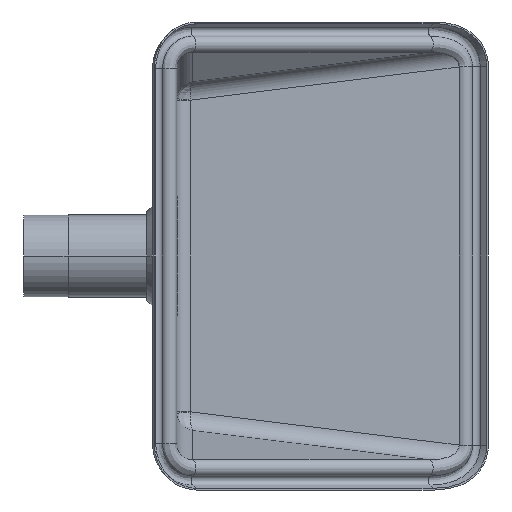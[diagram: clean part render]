
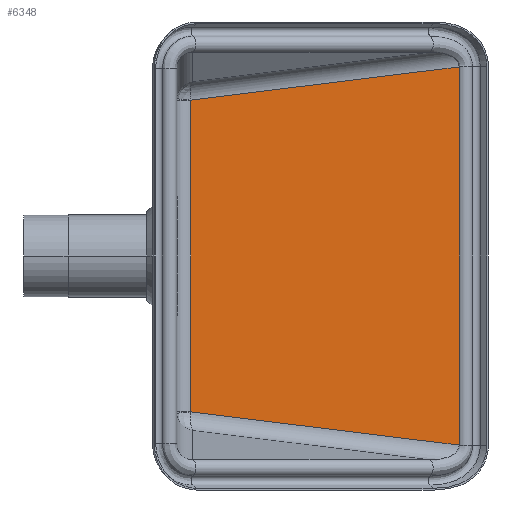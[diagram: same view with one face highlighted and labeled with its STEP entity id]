
A CAD part, front view. The second image highlights one B-rep face of the part: STEP entity #6348.
In plain terms, the highlighted planar face has unit normal (0.044, -0.999, 0) as drawn and (0, -0.887, -0.461) by its records, which use the part's own axes.
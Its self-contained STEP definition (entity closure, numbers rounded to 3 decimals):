
#2638=DIRECTION('',(1.,0.,0.));
#2639=VECTOR('',#2638,459.919);
#2640=CARTESIAN_POINT('',(-229.959,-1.395,
198.347));
#2641=LINE('',#2640,#2639);
#2842=DIRECTION('',(0.123,-0.458,0.88));
#2843=VECTOR('',#2842,329.246);
#2844=CARTESIAN_POINT('',(189.559,149.382,-91.544));
#2845=LINE('',#2844,#2843);
#2849=CARTESIAN_POINT('',(189.037,149.394,-91.567));
#2850=CARTESIAN_POINT('',(189.095,149.394,-91.567));
#2851=CARTESIAN_POINT('',(189.211,149.393,-91.565));
#2852=CARTESIAN_POINT('',(189.385,149.389,-91.558));
#2853=CARTESIAN_POINT('',(189.501,149.385,-91.549));
#2854=CARTESIAN_POINT('',(189.559,149.382,-91.544));
#2859=CARTESIAN_POINT('',(-189.559,149.382,
-91.544));
#2860=CARTESIAN_POINT('',(-189.501,149.385,
-91.549));
#2861=CARTESIAN_POINT('',(-189.385,149.389,
-91.558));
#2862=CARTESIAN_POINT('',(-189.211,149.393,
-91.565));
#2863=CARTESIAN_POINT('',(-189.095,149.394,
-91.567));
#2864=CARTESIAN_POINT('',(-189.037,149.394,
-91.567));
#2869=DIRECTION('',(0.123,0.458,-0.88));
#2870=VECTOR('',#2869,329.246);
#2871=CARTESIAN_POINT('',(-229.959,-1.395,
198.347));
#2872=LINE('',#2871,#2870);
#2986=DIRECTION('',(-1.,0.,0.));
#2987=VECTOR('',#2986,378.074);
#2988=CARTESIAN_POINT('',(189.037,149.394,-91.567));
#2989=LINE('',#2988,#2987);
#3830=CARTESIAN_POINT('',(189.037,149.394,-91.567));
#3831=CARTESIAN_POINT('',(-189.037,149.394,
-91.567));
#3832=VERTEX_POINT('',#3830);
#3833=VERTEX_POINT('',#3831);
#3834=VERTEX_POINT('',#2854);
#3835=CARTESIAN_POINT('',(-189.559,149.382,
-91.544));
#3836=VERTEX_POINT('',#3835);
#3952=CARTESIAN_POINT('',(-229.959,-1.395,
198.347));
#3953=CARTESIAN_POINT('',(229.959,-1.395,198.347));
#3954=VERTEX_POINT('',#3952);
#3955=VERTEX_POINT('',#3953);
#6332=CARTESIAN_POINT('',(250.,149.394,-91.567));
#6333=DIRECTION('',(0.,0.887,0.461));
#6334=DIRECTION('',(0.,-0.461,0.887));
#6335=AXIS2_PLACEMENT_3D('',#6332,#6333,#6334);
#6336=PLANE('',#6335);
#6338=ORIENTED_EDGE('',*,*,#6337,.F.);
#6340=ORIENTED_EDGE('',*,*,#6339,.F.);
#6342=ORIENTED_EDGE('',*,*,#6341,.T.);
#6343=ORIENTED_EDGE('',*,*,#6201,.F.);
#6344=ORIENTED_EDGE('',*,*,#6324,.F.);
#6345=ORIENTED_EDGE('',*,*,#5778,.T.);
#6346=EDGE_LOOP('',(#6338,#6340,#6342,#6343,#6344,#6345));
#6347=FACE_OUTER_BOUND('',#6346,.F.);
#2855=B_SPLINE_CURVE_WITH_KNOTS('',3,(#2849,#2850,#2851,#2852,#2853,#2854),
.UNSPECIFIED.,.F.,.F.,(4,1,1,4),(0.,0.333,0.667,1.),
.UNSPECIFIED.);
#2865=B_SPLINE_CURVE_WITH_KNOTS('',3,(#2859,#2860,#2861,#2862,#2863,#2864),
.UNSPECIFIED.,.F.,.F.,(4,1,1,4),(0.,0.333,0.667,1.),
.UNSPECIFIED.);
#5778=EDGE_CURVE('',#3954,#3955,#2641,.T.);
#6201=EDGE_CURVE('',#3836,#3833,#2865,.T.);
#6324=EDGE_CURVE('',#3954,#3836,#2872,.T.);
#6337=EDGE_CURVE('',#3834,#3955,#2845,.T.);
#6339=EDGE_CURVE('',#3832,#3834,#2855,.T.);
#6341=EDGE_CURVE('',#3832,#3833,#2989,.T.);
#6348=ADVANCED_FACE('',(#6347),#6336,.F.);
